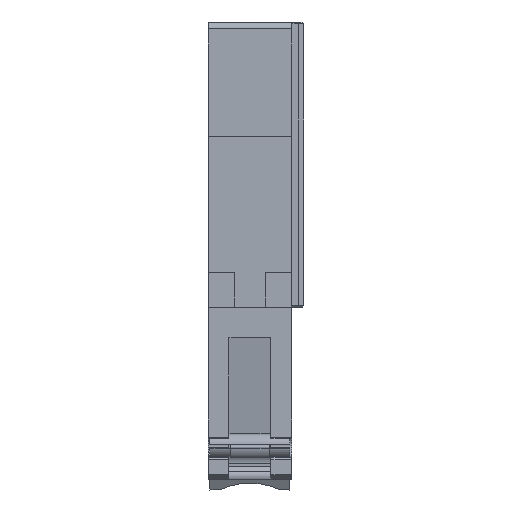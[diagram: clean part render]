
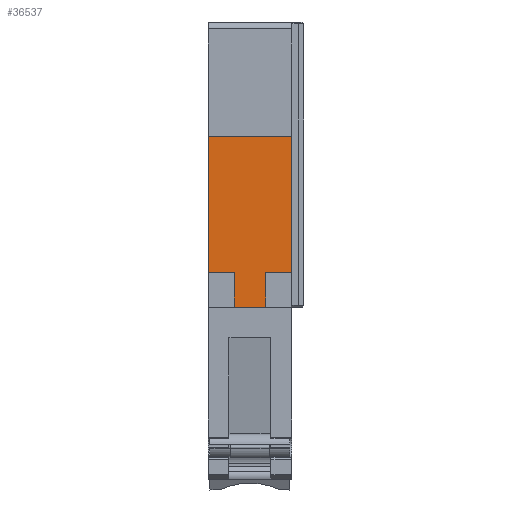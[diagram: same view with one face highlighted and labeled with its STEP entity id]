
A CAD part, left-side view. The second image highlights one B-rep face of the part: STEP entity #36537.
In plain terms, the highlighted planar face has unit normal (-1, 0, 0).
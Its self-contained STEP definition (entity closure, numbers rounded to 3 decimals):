
#9139=DIRECTION('',(0.,0.,-1.));
#9140=VECTOR('',#9139,5.);
#9141=CARTESIAN_POINT('',(-62.9,-2.25,-35.9));
#9142=LINE('',#9141,#9140);
#9143=DIRECTION('',(0.,1.,0.));
#9144=VECTOR('',#9143,4.5);
#9145=CARTESIAN_POINT('',(-62.9,-2.25,-40.9));
#9146=LINE('',#9145,#9144);
#9147=DIRECTION('',(0.,-1.,0.));
#9148=VECTOR('',#9147,12.);
#9149=CARTESIAN_POINT('',(-62.9,6.,-16.37));
#9150=LINE('',#9149,#9148);
#9151=DIRECTION('',(0.,0.,-1.));
#9152=VECTOR('',#9151,19.53);
#9153=CARTESIAN_POINT('',(-62.9,-6.,-16.37));
#9154=LINE('',#9153,#9152);
#9155=DIRECTION('',(0.,-1.,0.));
#9156=VECTOR('',#9155,3.75);
#9157=CARTESIAN_POINT('',(-62.9,-2.25,-35.9));
#9158=LINE('',#9157,#9156);
#9331=DIRECTION('',(0.,0.,-1.));
#9332=VECTOR('',#9331,19.53);
#9333=CARTESIAN_POINT('',(-62.9,6.,-16.37));
#9334=LINE('',#9333,#9332);
#9371=DIRECTION('',(0.,-1.,0.));
#9372=VECTOR('',#9371,3.75);
#9373=CARTESIAN_POINT('',(-62.9,6.,-35.9));
#9374=LINE('',#9373,#9372);
#9379=DIRECTION('',(0.,0.,-1.));
#9380=VECTOR('',#9379,5.);
#9381=CARTESIAN_POINT('',(-62.9,2.25,-35.9));
#9382=LINE('',#9381,#9380);
#18513=CARTESIAN_POINT('',(-62.9,-6.,-35.9));
#18514=VERTEX_POINT('',#18513);
#18515=CARTESIAN_POINT('',(-62.9,-6.,-16.37));
#18516=VERTEX_POINT('',#18515);
#18535=CARTESIAN_POINT('',(-62.9,6.,-16.37));
#18536=VERTEX_POINT('',#18535);
#18537=CARTESIAN_POINT('',(-62.9,6.,-35.9));
#18538=VERTEX_POINT('',#18537);
#20230=CARTESIAN_POINT('',(-62.9,2.25,-40.9));
#20231=VERTEX_POINT('',#20230);
#20232=CARTESIAN_POINT('',(-62.9,-2.25,-40.9));
#20233=VERTEX_POINT('',#20232);
#20542=CARTESIAN_POINT('',(-62.9,-2.25,-35.9));
#20543=VERTEX_POINT('',#20542);
#20544=CARTESIAN_POINT('',(-62.9,2.25,-35.9));
#20545=VERTEX_POINT('',#20544);
#36516=CARTESIAN_POINT('',(-62.9,-6.,-35.9));
#36517=DIRECTION('',(-1.,0.,0.));
#36518=DIRECTION('',(0.,0.,1.));
#36519=AXIS2_PLACEMENT_3D('',#36516,#36517,#36518);
#36520=PLANE('',#36519);
#36522=ORIENTED_EDGE('',*,*,#36521,.F.);
#36523=ORIENTED_EDGE('',*,*,#36508,.T.);
#36524=ORIENTED_EDGE('',*,*,#36309,.T.);
#36526=ORIENTED_EDGE('',*,*,#36525,.F.);
#36528=ORIENTED_EDGE('',*,*,#36527,.F.);
#36530=ORIENTED_EDGE('',*,*,#36529,.F.);
#36532=ORIENTED_EDGE('',*,*,#36531,.T.);
#36534=ORIENTED_EDGE('',*,*,#36533,.T.);
#36535=EDGE_LOOP('',(#36522,#36523,#36524,#36526,#36528,#36530,#36532,#36534));
#36536=FACE_OUTER_BOUND('',#36535,.F.);
#36537=ADVANCED_FACE('',(#36536),#36520,.T.);
#36309=EDGE_CURVE('',#20233,#20231,#9146,.T.);
#36508=EDGE_CURVE('',#20543,#20233,#9142,.T.);
#36521=EDGE_CURVE('',#20543,#18514,#9158,.T.);
#36525=EDGE_CURVE('',#20545,#20231,#9382,.T.);
#36527=EDGE_CURVE('',#18538,#20545,#9374,.T.);
#36529=EDGE_CURVE('',#18536,#18538,#9334,.T.);
#36531=EDGE_CURVE('',#18536,#18516,#9150,.T.);
#36533=EDGE_CURVE('',#18516,#18514,#9154,.T.);
